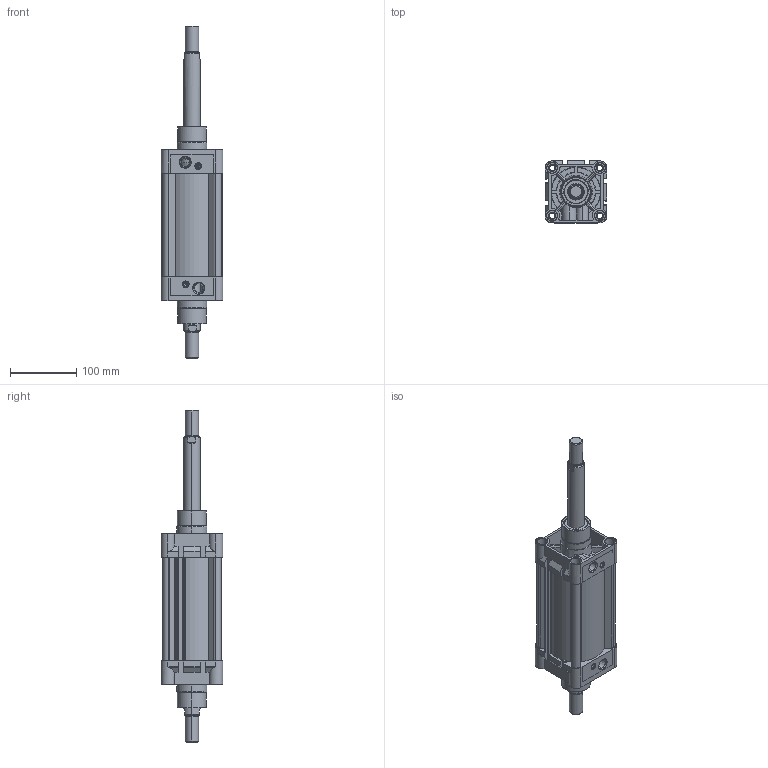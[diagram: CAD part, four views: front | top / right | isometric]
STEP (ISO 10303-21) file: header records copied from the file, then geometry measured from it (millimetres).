
FILE_DESCRIPTION (( 'STEP AP203' ), '1' );
FILE_NAME ('KDNT80X100CIFTMILLI-CYLINDER.STEP', '2015-03-23T13:42:27', ( 'user' ), ( '' ), 'SwSTEP 2.0', 'SolidWorks 2013', '' );
FILE_SCHEMA (( 'CONFIG_CONTROL_DESIGN' ));
Length unit declared in the file: millimetre
Products named in the file (6): 烰 KAPAK  80; ORTA PÝSTON 80 ÇÝFT MÝLLÝ; Piston Mili 80x100; KDNT 80X100 BORU; SAPLAMALI M尳 80x100; KDNT80X100CIFTMILLI-CYLINDER
Assembly tree (6 placements, depth 2):
  KDNT80X100CIFTMILLI-CYLINDER
    烰 KAPAK  80  x2
    ORTA PÝSTON 80 ÇÝFT MÝLLÝ
    Piston Mili 80x100
    KDNT 80X100 BORU
    SAPLAMALI M尳 80x100
Bounding box: 93 x 93.3 x 500 mm (x, y, z)
Volume: 916931.5 mm3; surface area: 368194 mm2
Topology: 8 solids, 8 shells, 1088 faces, 2872 edges, 1842 vertices
Faces by surface type: cylinder 451, plane 322, cone 217, bspline 98
Entity records: 30439 total; most frequent: CARTESIAN_POINT 14124, ORIENTED_EDGE 3572, DIRECTION 2789, EDGE_CURVE 1786, VERTEX_POINT 1151, AXIS2_PLACEMENT_3D 1033, EDGE_LOOP 761, LINE 723
